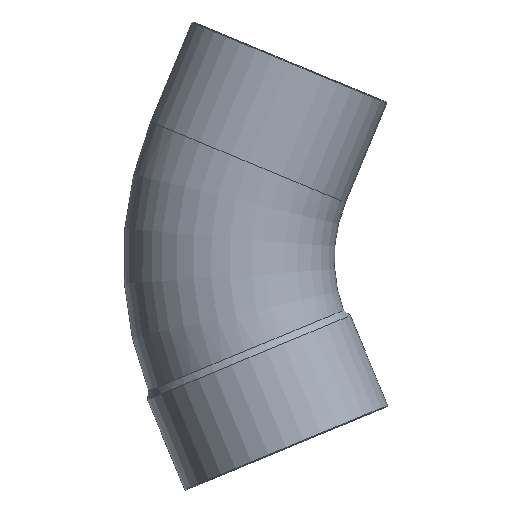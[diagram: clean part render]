
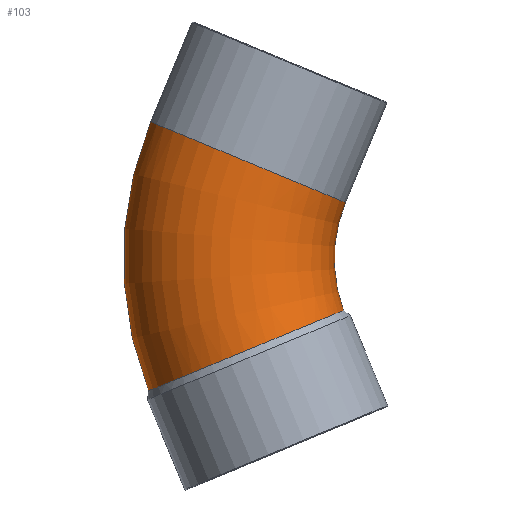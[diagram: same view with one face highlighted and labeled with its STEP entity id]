
A CAD part, front view. The second image highlights one B-rep face of the part: STEP entity #103.
In plain terms, the highlighted toroidal (fillet/blend) face has major radius 91.32 mm and minor radius 38.05 mm.
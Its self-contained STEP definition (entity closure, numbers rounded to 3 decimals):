
#44=CARTESIAN_POINT('',(4.435,0.,0.));
#45=DIRECTION('',(0.,1.0,0.));
#46=DIRECTION('',(-0.383,0.,0.924));
#47=AXIS2_PLACEMENT_3D('',#44,#45,#46);
#48=TOROIDAL_SURFACE('',#47,91.32,38.05);
#49=CARTESIAN_POINT('',(-115.858,0.,-47.604));
#50=VERTEX_POINT('',#49);
#51=CARTESIAN_POINT('',(-115.087,0.,49.508));
#52=VERTEX_POINT('',#51);
#53=CARTESIAN_POINT('',(4.435,0.,0.));
#54=DIRECTION('',(0.0,1.0,0.0));
#55=DIRECTION('',(0.0,0.0,1.0));
#56=AXIS2_PLACEMENT_3D('',#53,#54,#55);
#57=CIRCLE('',#56,129.37);
#58=EDGE_CURVE('',#50,#52,#57,.T.);
#59=ORIENTED_EDGE('',*,*,#58,.F.);
#60=CARTESIAN_POINT('',(-45.498,0.,-18.558));
#61=VERTEX_POINT('',#60);
#62=CARTESIAN_POINT('',(-115.858,0.,-47.604));
#63=CARTESIAN_POINT('',(-115.858,-2.805,-47.604));
#64=CARTESIAN_POINT('',(-115.572,-5.601,-47.485));
#65=CARTESIAN_POINT('',(-114.435,-11.075,-47.015));
#66=CARTESIAN_POINT('',(-113.589,-13.736,-46.665));
#67=CARTESIAN_POINT('',(-110.523,-20.75,-45.397));
#68=CARTESIAN_POINT('',(-107.775,-24.772,-44.261));
#69=CARTESIAN_POINT('',(-101.008,-31.451,-41.463));
#70=CARTESIAN_POINT('',(-97.053,-34.043,-39.828));
#71=CARTESIAN_POINT('',(-88.448,-37.442,-36.272));
#72=CARTESIAN_POINT('',(-83.879,-38.216,-34.384));
#73=CARTESIAN_POINT('',(-74.722,-37.825,-30.602));
#74=CARTESIAN_POINT('',(-70.222,-36.664,-28.745));
#75=CARTESIAN_POINT('',(-61.887,-32.541,-25.307));
#76=CARTESIAN_POINT('',(-58.132,-29.619,-23.759));
#77=CARTESIAN_POINT('',(-51.869,-22.385,-21.179));
#78=CARTESIAN_POINT('',(-49.421,-18.143,-20.171));
#79=CARTESIAN_POINT('',(-46.275,-9.194,-18.877));
#80=CARTESIAN_POINT('',(-45.498,-4.615,-18.558));
#81=CARTESIAN_POINT('',(-45.498,0.,-18.558));
#82=B_SPLINE_CURVE_WITH_KNOTS('',3,(#62,#63,#64,#65,#66,#67,#68,#69,#70,#71,#72,#73,#74,#75,#76,#77,#78,#79,#80,#81),.UNSPECIFIED.,.F.,.U.,(4,2,2,2,2,2,2,2,2,4),(-23.982,-23.141,-22.299,-20.813,-19.326,-17.839,-16.352,-14.865,-13.379,-11.993),.UNSPECIFIED.);
#83=EDGE_CURVE('',#50,#61,#82,.T.);
#84=ORIENTED_EDGE('',*,*,#83,.T.);
#85=CARTESIAN_POINT('',(-44.78,0.,20.386));
#86=VERTEX_POINT('',#85);
#87=CARTESIAN_POINT('',(4.435,0.,0.));
#88=DIRECTION('',(0.0,-1.0,0.0));
#89=DIRECTION('',(0.0,0.0,1.0));
#90=AXIS2_PLACEMENT_3D('',#87,#88,#89);
#91=CIRCLE('',#90,53.27);
#92=EDGE_CURVE('',#86,#61,#91,.T.);
#93=ORIENTED_EDGE('',*,*,#92,.F.);
#94=CARTESIAN_POINT('',(-79.934,0.,34.947));
#95=DIRECTION('',(-0.383,0.,-0.924));
#96=DIRECTION('',(-0.924,0.,0.383));
#97=AXIS2_PLACEMENT_3D('',#94,#95,#96);
#98=CIRCLE('',#97,38.05);
#99=EDGE_CURVE('',#86,#52,#98,.T.);
#100=ORIENTED_EDGE('',*,*,#99,.T.);
#101=EDGE_LOOP('',(#59,#84,#93,#100));
#102=FACE_OUTER_BOUND('',#101,.T.);
#103=ADVANCED_FACE('',(#102),#48,.T.);
